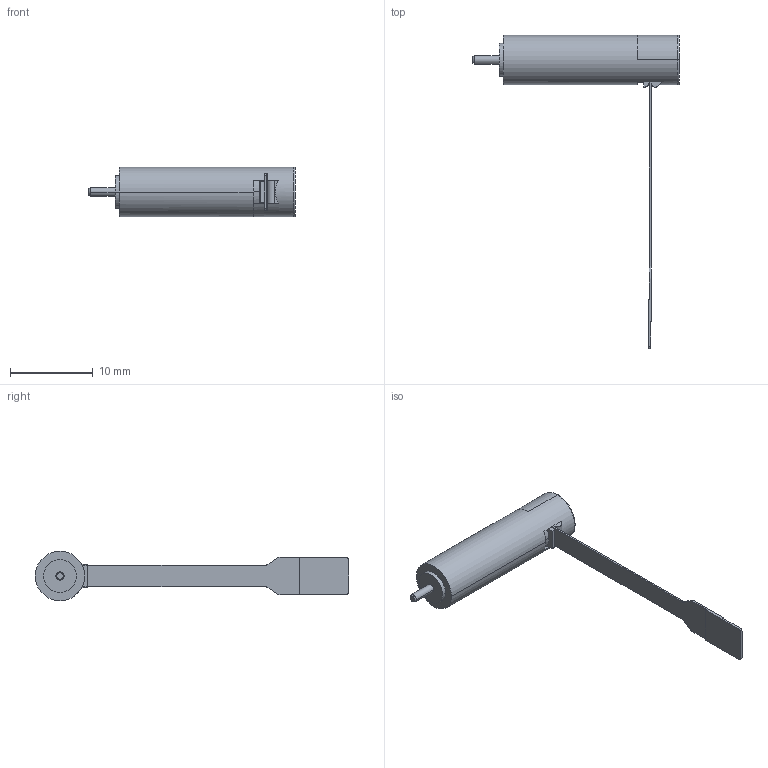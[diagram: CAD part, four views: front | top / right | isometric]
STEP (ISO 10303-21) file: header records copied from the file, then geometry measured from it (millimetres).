
FILE_DESCRIPTION((''),'2;1');
FILE_NAME('1082006_ASM','2010-03-09T',('MMAGPETK'),(''),'PRO/ENGINEER BY PARAMETRIC TECHNOLOGY CORPORATION, 2009230','PRO/ENGINEER BY PARAMETRIC TECHNOLOGY CORPORATION, 2009230','');
FILE_SCHEMA(('CONFIG_CONTROL_DESIGN'));
Length unit declared in the file: millimetre
Products named in the file (1): 1082006_ASM
Bounding box: 25 x 38 x 6 mm (x, y, z)
Volume: 576.9 mm3; surface area: 799.1 mm2
Topology: 1 solids, 1 shells, 89 faces, 249 edges, 163 vertices
Faces by surface type: plane 62, cylinder 18, cone 5, torus 4
Entity records: 2906 total; most frequent: CARTESIAN_POINT 517, ORIENTED_EDGE 498, DIRECTION 487, EDGE_CURVE 249, VECTOR 183, LINE 183, VERTEX_POINT 163, AXIS2_PLACEMENT_3D 152
